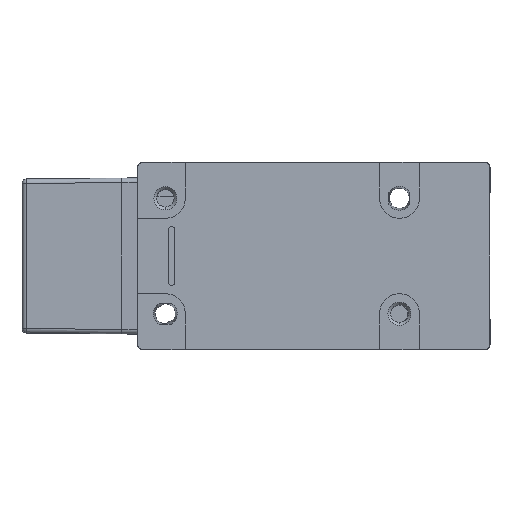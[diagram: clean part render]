
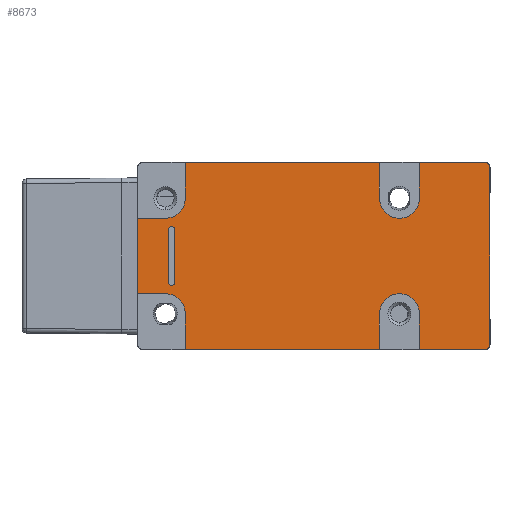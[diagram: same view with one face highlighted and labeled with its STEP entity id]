
A CAD part, left-side view. The second image highlights one B-rep face of the part: STEP entity #8673.
In plain terms, the highlighted planar face has unit normal (-1, 0, 0).
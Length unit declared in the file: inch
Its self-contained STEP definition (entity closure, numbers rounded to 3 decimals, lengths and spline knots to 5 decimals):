
#303=DIRECTION('',(0.,0.,1.));
#304=VECTOR('',#303,0.756);
#305=CARTESIAN_POINT('',(-0.835,-0.16014,-0.378));
#306=LINE('',#305,#304);
#406=DIRECTION('',(0.,0.,-1.));
#407=VECTOR('',#406,0.35936);
#408=CARTESIAN_POINT('',(-0.835,-2.979,-0.578));
#409=LINE('',#408,#407);
#410=CARTESIAN_POINT('',(-0.835,-2.779,-0.578));
#411=DIRECTION('',(1.,0.,0.));
#412=DIRECTION('',(0.,1.,0.));
#413=AXIS2_PLACEMENT_3D('',#410,#411,#412);
#415=DIRECTION('',(0.,0.,1.));
#416=VECTOR('',#415,0.35936);
#417=CARTESIAN_POINT('',(-0.835,-2.579,-0.93736));
#418=LINE('',#417,#416);
#419=DIRECTION('',(0.,0.,-1.));
#420=VECTOR('',#419,0.35936);
#421=CARTESIAN_POINT('',(-0.835,-0.635,-0.578));
#422=LINE('',#421,#420);
#423=CARTESIAN_POINT('',(-0.835,-0.435,-0.578));
#424=DIRECTION('',(1.,0.,0.));
#425=DIRECTION('',(0.,0.,1.));
#426=AXIS2_PLACEMENT_3D('',#423,#424,#425);
#428=DIRECTION('',(0.,-1.,0.));
#429=VECTOR('',#428,0.27486);
#430=CARTESIAN_POINT('',(-0.835,-0.16014,-0.378));
#431=LINE('',#430,#429);
#432=DIRECTION('',(0.,1.,0.));
#433=VECTOR('',#432,0.27486);
#434=CARTESIAN_POINT('',(-0.835,-0.435,0.378));
#435=LINE('',#434,#433);
#436=CARTESIAN_POINT('',(-0.835,-0.435,0.578));
#437=DIRECTION('',(1.,0.,0.));
#438=DIRECTION('',(0.,-1.,0.));
#439=AXIS2_PLACEMENT_3D('',#436,#437,#438);
#441=DIRECTION('',(0.,0.,-1.));
#442=VECTOR('',#441,0.35936);
#443=CARTESIAN_POINT('',(-0.835,-0.635,0.93736));
#444=LINE('',#443,#442);
#445=DIRECTION('',(0.,0.,1.));
#446=VECTOR('',#445,0.35936);
#447=CARTESIAN_POINT('',(-0.835,-2.579,0.578));
#448=LINE('',#447,#446);
#449=CARTESIAN_POINT('',(-0.835,-2.779,0.578));
#450=DIRECTION('',(1.,0.,0.));
#451=DIRECTION('',(0.,-1.,0.));
#452=AXIS2_PLACEMENT_3D('',#449,#450,#451);
#454=DIRECTION('',(0.,0.,-1.));
#455=VECTOR('',#454,0.35936);
#456=CARTESIAN_POINT('',(-0.835,-2.979,0.93736));
#457=LINE('',#456,#455);
#458=CARTESIAN_POINT('',(-0.835,-0.49748,0.25998));
#459=DIRECTION('',(1.,0.,0.));
#460=DIRECTION('',(0.,1.,0.));
#461=AXIS2_PLACEMENT_3D('',#458,#459,#460);
#463=DIRECTION('',(0.,0.,1.));
#464=VECTOR('',#463,0.51995);
#465=CARTESIAN_POINT('',(-0.835,-0.465,-0.25998));
#466=LINE('',#465,#464);
#467=CARTESIAN_POINT('',(-0.835,-0.49748,-0.25998));
#468=DIRECTION('',(1.,0.,0.));
#469=DIRECTION('',(0.,-1.,0.));
#470=AXIS2_PLACEMENT_3D('',#467,#468,#469);
#472=DIRECTION('',(0.,0.,-1.));
#473=VECTOR('',#472,0.51995);
#474=CARTESIAN_POINT('',(-0.835,-0.52995,0.25998));
#475=LINE('',#474,#473);
#480=CARTESIAN_POINT('',(-0.835,-3.63986,-0.93736));
#481=CARTESIAN_POINT('',(-0.835,-3.64361,-0.93736));
#482=CARTESIAN_POINT('',(-0.835,-3.65022,-0.93647));
#483=CARTESIAN_POINT('',(-0.835,-3.66135,-0.9326));
#484=CARTESIAN_POINT('',(-0.835,-3.67231,-0.92481));
#485=CARTESIAN_POINT('',(-0.835,-3.6801,-0.91385));
#486=CARTESIAN_POINT('',(-0.835,-3.68397,-0.90272));
#487=CARTESIAN_POINT('',(-0.835,-3.68486,-0.89611));
#488=CARTESIAN_POINT('',(-0.835,-3.68486,-0.89236));
#540=DIRECTION('',(0.,0.,-1.));
#541=VECTOR('',#540,1.78472);
#542=CARTESIAN_POINT('',(-0.835,-3.68486,0.89236));
#543=LINE('',#542,#541);
#917=DIRECTION('',(0.,-1.,0.));
#918=VECTOR('',#917,0.66086);
#919=CARTESIAN_POINT('',(-0.835,-2.979,0.93736));
#920=LINE('',#919,#918);
#929=DIRECTION('',(0.,-1.,0.));
#930=VECTOR('',#929,1.944);
#931=CARTESIAN_POINT('',(-0.835,-0.635,0.93736));
#932=LINE('',#931,#930);
#2749=DIRECTION('',(0.,1.,0.));
#2750=VECTOR('',#2749,1.944);
#2751=CARTESIAN_POINT('',(-0.835,-2.579,-0.93736));
#2752=LINE('',#2751,#2750);
#2761=DIRECTION('',(0.,1.,0.));
#2762=VECTOR('',#2761,0.66086);
#2763=CARTESIAN_POINT('',(-0.835,-3.63986,-0.93736));
#2764=LINE('',#2763,#2762);
#3698=CARTESIAN_POINT('',(-0.835,-3.68486,0.89236));
#3699=CARTESIAN_POINT('',(-0.835,-3.68486,0.89611));
#3700=CARTESIAN_POINT('',(-0.835,-3.68397,0.90272));
#3701=CARTESIAN_POINT('',(-0.835,-3.6801,0.91385));
#3702=CARTESIAN_POINT('',(-0.835,-3.67231,0.92481));
#3703=CARTESIAN_POINT('',(-0.835,-3.66135,0.9326));
#3704=CARTESIAN_POINT('',(-0.835,-3.65022,0.93647));
#3705=CARTESIAN_POINT('',(-0.835,-3.64361,0.93736));
#3706=CARTESIAN_POINT('',(-0.835,-3.63986,0.93736));
#7521=CARTESIAN_POINT('',(-0.835,-0.435,-0.378));
#7522=CARTESIAN_POINT('',(-0.835,-0.635,-0.578));
#7523=VERTEX_POINT('',#7521);
#7524=VERTEX_POINT('',#7522);
#7525=CARTESIAN_POINT('',(-0.835,-2.579,-0.578));
#7526=CARTESIAN_POINT('',(-0.835,-2.979,-0.578));
#7527=VERTEX_POINT('',#7525);
#7528=VERTEX_POINT('',#7526);
#7529=CARTESIAN_POINT('',(-0.835,-0.635,0.578));
#7530=CARTESIAN_POINT('',(-0.835,-0.435,0.378));
#7531=VERTEX_POINT('',#7529);
#7532=VERTEX_POINT('',#7530);
#7533=CARTESIAN_POINT('',(-0.835,-2.979,0.578));
#7534=CARTESIAN_POINT('',(-0.835,-2.579,0.578));
#7535=VERTEX_POINT('',#7533);
#7536=VERTEX_POINT('',#7534);
#7605=CARTESIAN_POINT('',(-0.835,-0.16014,-0.378));
#7606=CARTESIAN_POINT('',(-0.835,-0.16014,0.378));
#7607=VERTEX_POINT('',#7605);
#7608=VERTEX_POINT('',#7606);
#7609=CARTESIAN_POINT('',(-0.835,-0.635,0.93736));
#7610=CARTESIAN_POINT('',(-0.835,-2.579,0.93736));
#7611=VERTEX_POINT('',#7609);
#7612=VERTEX_POINT('',#7610);
#7613=CARTESIAN_POINT('',(-0.835,-2.979,0.93736));
#7614=VERTEX_POINT('',#7613);
#7615=CARTESIAN_POINT('',(-0.835,-2.579,-0.93736));
#7616=CARTESIAN_POINT('',(-0.835,-0.635,-0.93736));
#7617=VERTEX_POINT('',#7615);
#7618=VERTEX_POINT('',#7616);
#7619=CARTESIAN_POINT('',(-0.835,-2.979,-0.93736));
#7620=VERTEX_POINT('',#7619);
#7643=VERTEX_POINT('',#480);
#7644=VERTEX_POINT('',#488);
#7645=VERTEX_POINT('',#3698);
#7646=VERTEX_POINT('',#3706);
#7683=CARTESIAN_POINT('',(-0.835,-0.465,0.25998));
#7684=CARTESIAN_POINT('',(-0.835,-0.52995,0.25998));
#7685=VERTEX_POINT('',#7683);
#7686=VERTEX_POINT('',#7684);
#7687=CARTESIAN_POINT('',(-0.835,-0.52995,-0.25998));
#7688=VERTEX_POINT('',#7687);
#7689=CARTESIAN_POINT('',(-0.835,-0.465,-0.25998));
#7690=VERTEX_POINT('',#7689);
#8618=CARTESIAN_POINT('',(-0.835,-0.375,0.));
#8619=DIRECTION('',(-1.,0.,0.));
#8620=DIRECTION('',(0.,0.,1.));
#8621=AXIS2_PLACEMENT_3D('',#8618,#8619,#8620);
#8622=PLANE('',#8621);
#8624=ORIENTED_EDGE('',*,*,#8623,.F.);
#8626=ORIENTED_EDGE('',*,*,#8625,.T.);
#8628=ORIENTED_EDGE('',*,*,#8627,.F.);
#8630=ORIENTED_EDGE('',*,*,#8629,.F.);
#8632=ORIENTED_EDGE('',*,*,#8631,.F.);
#8634=ORIENTED_EDGE('',*,*,#8633,.T.);
#8636=ORIENTED_EDGE('',*,*,#8635,.F.);
#8638=ORIENTED_EDGE('',*,*,#8637,.F.);
#8639=ORIENTED_EDGE('',*,*,#8611,.F.);
#8640=ORIENTED_EDGE('',*,*,#8520,.T.);
#8642=ORIENTED_EDGE('',*,*,#8641,.F.);
#8644=ORIENTED_EDGE('',*,*,#8643,.F.);
#8646=ORIENTED_EDGE('',*,*,#8645,.F.);
#8648=ORIENTED_EDGE('',*,*,#8647,.T.);
#8650=ORIENTED_EDGE('',*,*,#8649,.F.);
#8652=ORIENTED_EDGE('',*,*,#8651,.F.);
#8654=ORIENTED_EDGE('',*,*,#8653,.F.);
#8656=ORIENTED_EDGE('',*,*,#8655,.T.);
#8658=ORIENTED_EDGE('',*,*,#8657,.F.);
#8660=ORIENTED_EDGE('',*,*,#8659,.T.);
#8661=EDGE_LOOP('',(#8624,#8626,#8628,#8630,#8632,#8634,#8636,#8638,#8639,#8640,
#8642,#8644,#8646,#8648,#8650,#8652,#8654,#8656,#8658,#8660));
#8662=FACE_OUTER_BOUND('',#8661,.F.);
#8664=ORIENTED_EDGE('',*,*,#8663,.F.);
#8666=ORIENTED_EDGE('',*,*,#8665,.F.);
#8668=ORIENTED_EDGE('',*,*,#8667,.F.);
#8670=ORIENTED_EDGE('',*,*,#8669,.F.);
#8671=EDGE_LOOP('',(#8664,#8666,#8668,#8670));
#8672=FACE_BOUND('',#8671,.F.);
#8673=ADVANCED_FACE('',(#8662,#8672),#8622,.T.);
#414=CIRCLE('',#413,0.2);
#427=CIRCLE('',#426,0.2);
#440=CIRCLE('',#439,0.2);
#453=CIRCLE('',#452,0.2);
#462=CIRCLE('',#461,0.03248);
#471=CIRCLE('',#470,0.03248);
#489=B_SPLINE_CURVE_WITH_KNOTS('',3,(#480,#481,#482,#483,#484,#485,#486,#487,
#488),.UNSPECIFIED.,.F.,.F.,(4,1,1,1,1,1,4),(0.,0.125,0.25,0.5,0.75,
0.875,1.),.UNSPECIFIED.);
#3707=B_SPLINE_CURVE_WITH_KNOTS('',3,(#3698,#3699,#3700,#3701,#3702,#3703,#3704,
#3705,#3706),.UNSPECIFIED.,.F.,.F.,(4,1,1,1,1,1,4),(0.,0.125,0.25,0.5,
0.75,0.875,1.),.UNSPECIFIED.);
#8520=EDGE_CURVE('',#7607,#7608,#306,.T.);
#8611=EDGE_CURVE('',#7607,#7523,#431,.T.);
#8623=EDGE_CURVE('',#7643,#7644,#489,.T.);
#8625=EDGE_CURVE('',#7643,#7620,#2764,.T.);
#8627=EDGE_CURVE('',#7528,#7620,#409,.T.);
#8629=EDGE_CURVE('',#7527,#7528,#414,.T.);
#8631=EDGE_CURVE('',#7617,#7527,#418,.T.);
#8633=EDGE_CURVE('',#7617,#7618,#2752,.T.);
#8635=EDGE_CURVE('',#7524,#7618,#422,.T.);
#8637=EDGE_CURVE('',#7523,#7524,#427,.T.);
#8641=EDGE_CURVE('',#7532,#7608,#435,.T.);
#8643=EDGE_CURVE('',#7531,#7532,#440,.T.);
#8645=EDGE_CURVE('',#7611,#7531,#444,.T.);
#8647=EDGE_CURVE('',#7611,#7612,#932,.T.);
#8649=EDGE_CURVE('',#7536,#7612,#448,.T.);
#8651=EDGE_CURVE('',#7535,#7536,#453,.T.);
#8653=EDGE_CURVE('',#7614,#7535,#457,.T.);
#8655=EDGE_CURVE('',#7614,#7646,#920,.T.);
#8657=EDGE_CURVE('',#7645,#7646,#3707,.T.);
#8659=EDGE_CURVE('',#7645,#7644,#543,.T.);
#8663=EDGE_CURVE('',#7685,#7686,#462,.T.);
#8665=EDGE_CURVE('',#7690,#7685,#466,.T.);
#8667=EDGE_CURVE('',#7688,#7690,#471,.T.);
#8669=EDGE_CURVE('',#7686,#7688,#475,.T.);
